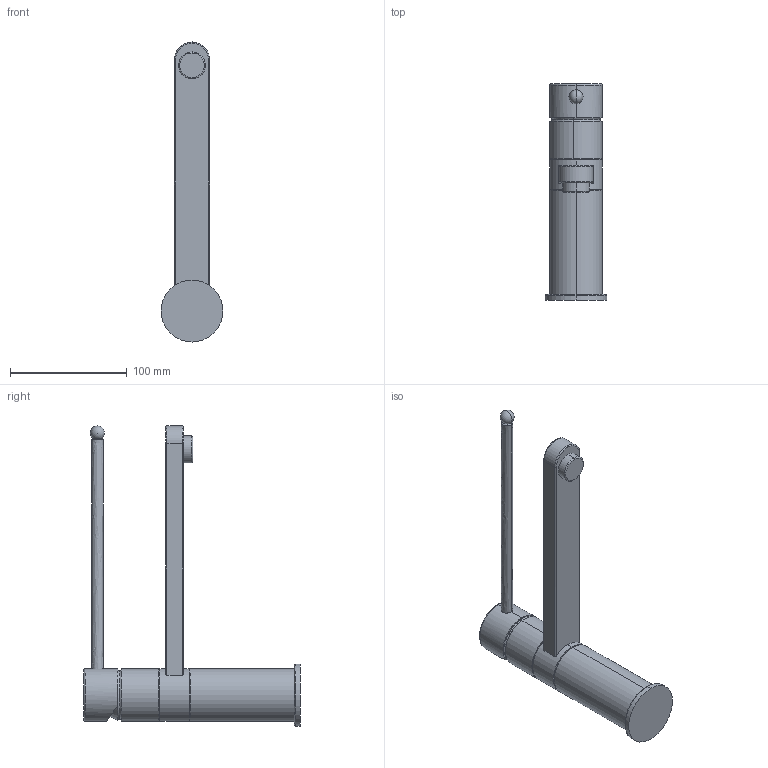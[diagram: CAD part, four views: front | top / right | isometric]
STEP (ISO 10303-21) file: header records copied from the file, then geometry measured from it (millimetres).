
FILE_DESCRIPTION (( 'STEP AP214' ), '1' );
FILE_NAME ('MIXER-38114.STEP', '2020-12-07T00:00:17', ( '' ), ( '' ), 'SwSTEP 2.0', 'SolidWorks 2020', '' );
FILE_SCHEMA (( 'AUTOMOTIVE_DESIGN' ));
Length unit declared in the file: millimetre
Products named in the file (6): mixer-38114-FIXED-3; mixer-38114outlet-only; SEDAL-CARTRIDGE; mixer-38114-FIXED-2; mixer-38114-FIXED-1; MIXER-38114
Assembly tree (5 placements, depth 2):
  MIXER-38114
    mixer-38114-FIXED-1
    mixer-38114outlet-only
    mixer-38114-FIXED-2
    SEDAL-CARTRIDGE
    mixer-38114-FIXED-3
Bounding box: 53 x 185.2 x 256.5 mm (x, y, z)
Volume: 374507.2 mm3; surface area: 96225.9 mm2
Topology: 21 solids, 21 shells, 883 faces, 2408 edges, 1568 vertices
Faces by surface type: cylinder 603, plane 235, torus 25, bspline 16, sphere 4
Entity records: 31408 total; most frequent: CARTESIAN_POINT 7867, DIRECTION 5286, ORIENTED_EDGE 4798, EDGE_CURVE 2399, AXIS2_PLACEMENT_3D 2117, VERTEX_POINT 1565, CIRCLE 1242, LINE 1052
